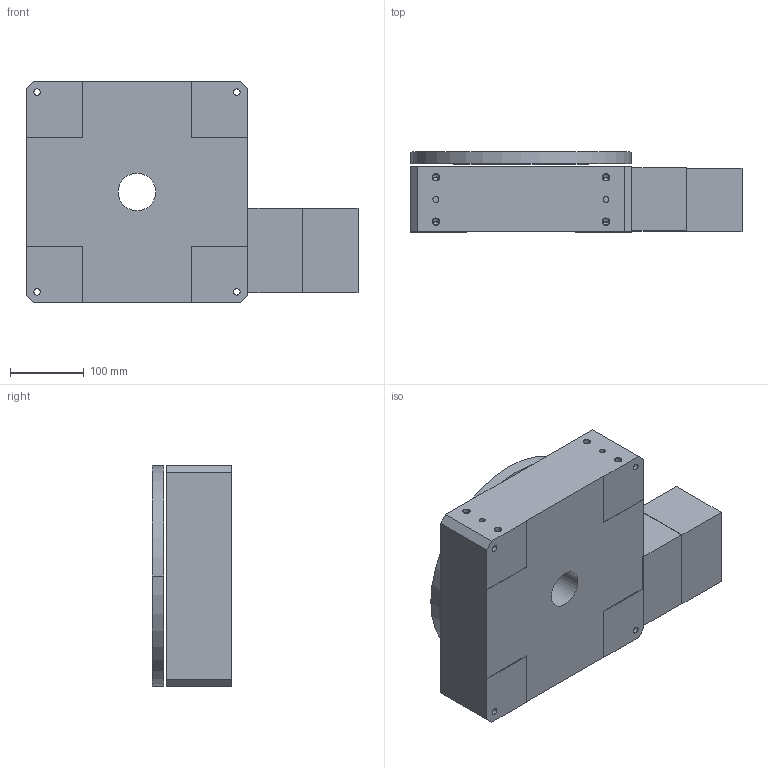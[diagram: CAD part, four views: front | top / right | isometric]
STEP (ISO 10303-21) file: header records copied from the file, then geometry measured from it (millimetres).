
FILE_DESCRIPTION((''),'2;1');
FILE_NAME('R300M9M23E0_ASM','2009-07-02T',('FK20128'),(''),'PRO/ENGINEER BY PARAMETRIC TECHNOLOGY CORPORATION, 2006200','PRO/ENGINEER BY PARAMETRIC TECHNOLOGY CORPORATION, 2006200','');
FILE_SCHEMA(('CONFIG_CONTROL_DESIGN'));
Length unit declared in the file: millimetre
Products named in the file (3): R300M; R300M-M23; R300M9M23E0_ASM
Assembly tree (2 placements, depth 2):
  R300M9M23E0_ASM
    R300M
    R300M-M23
Bounding box: 448.9 x 108.13 x 300 mm (x, y, z)
Volume: 10021555 mm3; surface area: 560249.5 mm2
Topology: 3 solids, 21 shells, 217 faces, 536 edges, 352 vertices
Faces by surface type: cylinder 124, plane 71, cone 22
Entity records: 6566 total; most frequent: DIRECTION 1254, CARTESIAN_POINT 1094, ORIENTED_EDGE 960, EDGE_CURVE 516, AXIS2_PLACEMENT_3D 512, VERTEX_POINT 352, EDGE_LOOP 294, CIRCLE 286
